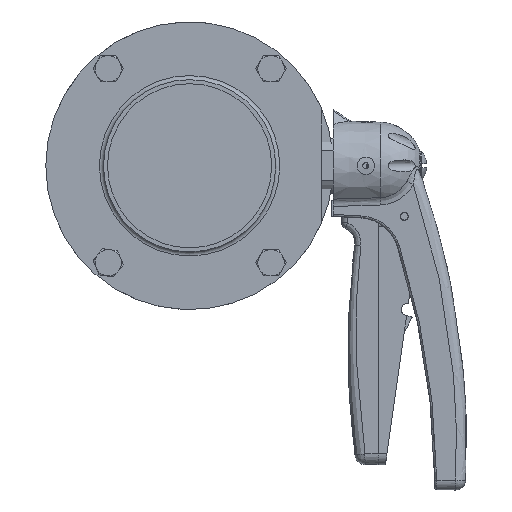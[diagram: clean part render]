
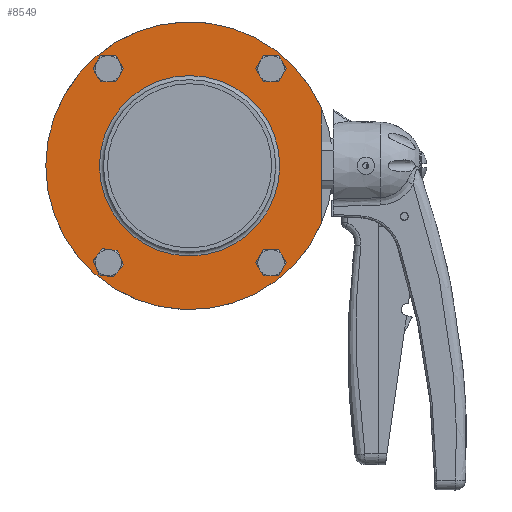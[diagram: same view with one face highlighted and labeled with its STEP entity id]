
A CAD part, front view. The second image highlights one B-rep face of the part: STEP entity #8549.
In plain terms, the highlighted planar face has unit normal (0, -1, 0).
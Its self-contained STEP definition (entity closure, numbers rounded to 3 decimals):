
#1547=LINE('',#23610,#2122);
#2122=VECTOR('',#11383,10.);
#2195=FACE_BOUND('',#3155,.T.);
#2196=FACE_BOUND('',#3156,.T.);
#2197=FACE_BOUND('',#3157,.T.);
#2198=FACE_BOUND('',#3158,.T.);
#2199=FACE_BOUND('',#3159,.T.);
#2635=FACE_OUTER_BOUND('',#3154,.T.);
#3154=EDGE_LOOP('',(#7716,#7717));
#3155=EDGE_LOOP('',(#7718));
#3156=EDGE_LOOP('',(#7719));
#3157=EDGE_LOOP('',(#7720));
#3158=EDGE_LOOP('',(#7721));
#3159=EDGE_LOOP('',(#7722));
#3470=CIRCLE('',#9405,4.25);
#3472=CIRCLE('',#9408,4.25);
#3474=CIRCLE('',#9411,4.25);
#3476=CIRCLE('',#9414,4.25);
#3484=CIRCLE('',#9428,44.5);
#3485=CIRCLE('',#9430,71.);
#4208=VERTEX_POINT('',#23582);
#4210=VERTEX_POINT('',#23588);
#4212=VERTEX_POINT('',#23594);
#4214=VERTEX_POINT('',#23600);
#4216=VERTEX_POINT('',#23606);
#4218=VERTEX_POINT('',#23609);
#4224=VERTEX_POINT('',#23630);
#5372=EDGE_CURVE('',#4208,#4208,#3470,.T.);
#5375=EDGE_CURVE('',#4210,#4210,#3472,.T.);
#5378=EDGE_CURVE('',#4212,#4212,#3474,.T.);
#5381=EDGE_CURVE('',#4214,#4214,#3476,.T.);
#5385=EDGE_CURVE('',#4218,#4216,#1547,.T.);
#5396=EDGE_CURVE('',#4224,#4224,#3484,.T.);
#5397=EDGE_CURVE('',#4218,#4216,#3485,.T.);
#7716=ORIENTED_EDGE('',*,*,#5385,.T.);
#7717=ORIENTED_EDGE('',*,*,#5397,.F.);
#7718=ORIENTED_EDGE('',*,*,#5372,.T.);
#7719=ORIENTED_EDGE('',*,*,#5375,.T.);
#7720=ORIENTED_EDGE('',*,*,#5378,.T.);
#7721=ORIENTED_EDGE('',*,*,#5381,.T.);
#7722=ORIENTED_EDGE('',*,*,#5396,.T.);
#8099=PLANE('',#9429);
#8549=ADVANCED_FACE('',(#2635,#2195,#2196,#2197,#2198,#2199),#8099,.T.);
#9405=AXIS2_PLACEMENT_3D('',#23583,#11354,#11355);
#9408=AXIS2_PLACEMENT_3D('',#23589,#11361,#11362);
#9411=AXIS2_PLACEMENT_3D('',#23595,#11368,#11369);
#9414=AXIS2_PLACEMENT_3D('',#23601,#11375,#11376);
#9428=AXIS2_PLACEMENT_3D('',#23632,#11410,#11411);
#9429=AXIS2_PLACEMENT_3D('',#23633,#11412,#11413);
#9430=AXIS2_PLACEMENT_3D('',#23634,#11414,#11415);
#11354=DIRECTION('center_axis',(0.,1.,0.));
#11355=DIRECTION('ref_axis',(-1.,0.,0.));
#11361=DIRECTION('center_axis',(0.,1.,0.));
#11362=DIRECTION('ref_axis',(-1.,0.,0.));
#11368=DIRECTION('center_axis',(0.,1.,0.));
#11369=DIRECTION('ref_axis',(-1.,0.,0.));
#11375=DIRECTION('center_axis',(0.,1.,0.));
#11376=DIRECTION('ref_axis',(-1.,0.,0.));
#11383=DIRECTION('',(-1.,0.,0.));
#11410=DIRECTION('center_axis',(0.,1.,0.));
#11411=DIRECTION('ref_axis',(1.,0.,0.));
#11412=DIRECTION('center_axis',(0.,-1.,0.));
#11413=DIRECTION('ref_axis',(0.,0.,-1.));
#11414=DIRECTION('center_axis',(0.,1.,0.));
#11415=DIRECTION('ref_axis',(1.,0.,0.));
#23582=CARTESIAN_POINT('',(-43.628,-10.,-40.174));
#23583=CARTESIAN_POINT('Origin',(-47.878,-10.,-40.174));
#23588=CARTESIAN_POINT('',(52.128,-10.,40.174));
#23589=CARTESIAN_POINT('Origin',(47.878,-10.,40.174));
#23594=CARTESIAN_POINT('',(-43.628,-10.,40.174));
#23595=CARTESIAN_POINT('Origin',(-47.878,-10.,40.174));
#23600=CARTESIAN_POINT('',(52.128,-10.,-40.174));
#23601=CARTESIAN_POINT('Origin',(47.878,-10.,-40.174));
#23606=CARTESIAN_POINT('',(-28.566,-10.,65.));
#23609=CARTESIAN_POINT('',(28.566,-10.,65.));
#23610=CARTESIAN_POINT('',(0.,-10.,65.));
#23630=CARTESIAN_POINT('',(0.,-10.,-44.5));
#23632=CARTESIAN_POINT('Origin',(0.,-10.,0.));
#23633=CARTESIAN_POINT('Origin',(0.,-10.,71.));
#23634=CARTESIAN_POINT('Origin',(0.,-10.,0.));
